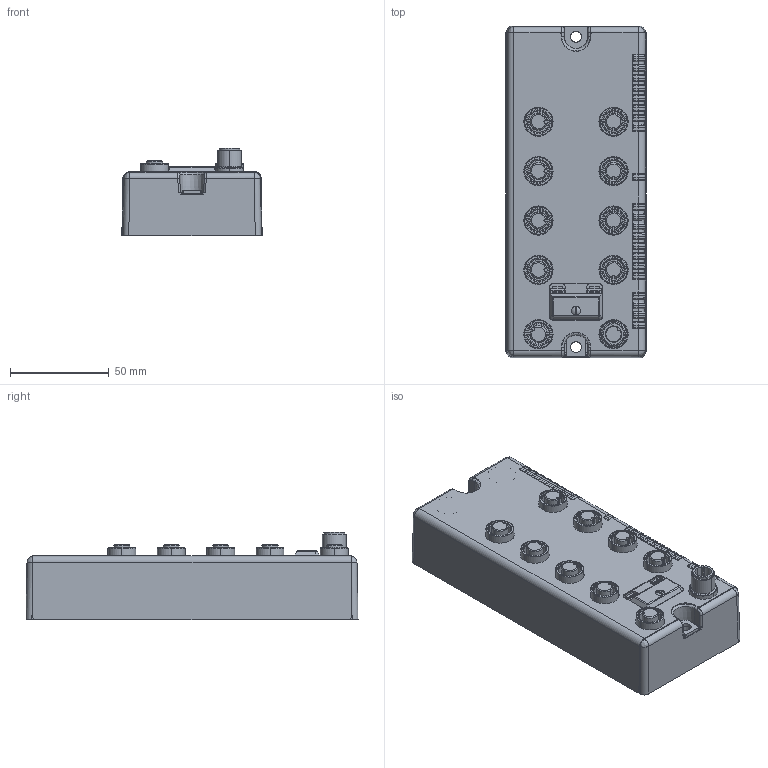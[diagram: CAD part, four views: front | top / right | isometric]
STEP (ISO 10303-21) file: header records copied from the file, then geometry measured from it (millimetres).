
FILE_DESCRIPTION (( 'STEP AP203' ), '1' );
FILE_NAME ('BLC-8M12.step', '2014-10-29T18:16:00', ( 'Turck User' ), ( '' ), 'SwSTEP 2.0', 'SolidWorks 2014', '' );
FILE_SCHEMA (( 'CONFIG_CONTROL_DESIGN' ));
Products named in the file (1): BLC-8M12
Bounding box: 70.99 x 168 x 44.4 mm (x, y, z)
Volume: 381321.3 mm3; surface area: 51276.7 mm2
Topology: 1 solids, 11 shells, 2219 faces, 5729 edges, 3500 vertices
Faces by surface type: plane 754, bspline 682, cylinder 674, cone 94, torus 13, sphere 2
Entity records: 132098 total; most frequent: CARTESIAN_POINT 85264, ORIENTED_EDGE 11442, DIRECTION 7148, EDGE_CURVE 5721, VERTEX_POINT 3500, LINE 2386, VECTOR 2386, AXIS2_PLACEMENT_3D 2381
